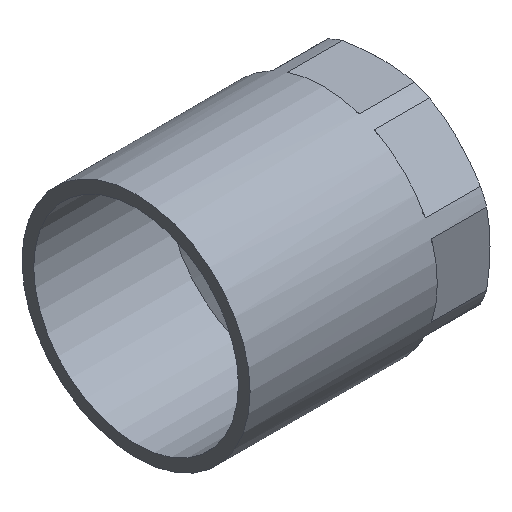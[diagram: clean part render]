
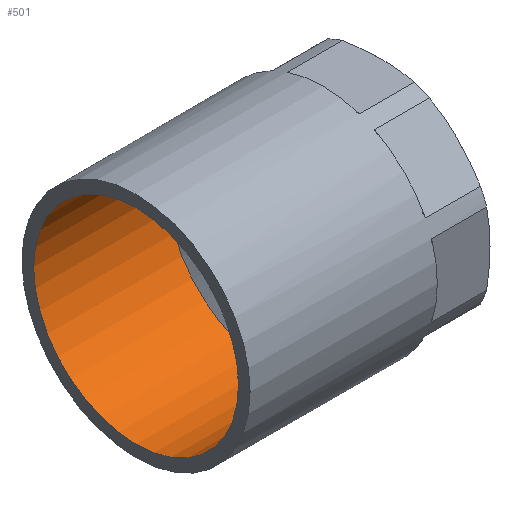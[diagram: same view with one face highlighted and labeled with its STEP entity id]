
A CAD part, isometric view. The second image highlights one B-rep face of the part: STEP entity #501.
In plain terms, the highlighted cylindrical face has radius 17.5 mm (diameter 35 mm), a full revolution.
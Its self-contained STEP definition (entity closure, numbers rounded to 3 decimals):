
#20=FACE_BOUND('',#117,.T.);
#24=CYLINDRICAL_SURFACE('',#563,17.5);
#80=FACE_OUTER_BOUND('',#116,.T.);
#116=EDGE_LOOP('',(#450));
#117=EDGE_LOOP('',(#451));
#196=CIRCLE('',#562,17.5);
#197=CIRCLE('',#564,17.5);
#242=VERTEX_POINT('',#888);
#243=VERTEX_POINT('',#891);
#312=EDGE_CURVE('',#242,#242,#196,.T.);
#313=EDGE_CURVE('',#243,#243,#197,.T.);
#450=ORIENTED_EDGE('',*,*,#313,.F.);
#451=ORIENTED_EDGE('',*,*,#312,.T.);
#501=ADVANCED_FACE('',(#80,#20),#24,.F.);
#562=AXIS2_PLACEMENT_3D('',#889,#706,#707);
#563=AXIS2_PLACEMENT_3D('',#890,#708,#709);
#564=AXIS2_PLACEMENT_3D('',#892,#710,#711);
#706=DIRECTION('center_axis',(1.,0.,0.));
#707=DIRECTION('ref_axis',(0.,1.,0.));
#708=DIRECTION('center_axis',(1.,0.,0.));
#709=DIRECTION('ref_axis',(0.,1.,0.));
#710=DIRECTION('center_axis',(1.,0.,0.));
#711=DIRECTION('ref_axis',(0.,1.,0.));
#888=CARTESIAN_POINT('',(23.,17.5,0.));
#889=CARTESIAN_POINT('Origin',(23.,0.,0.));
#890=CARTESIAN_POINT('Origin',(11.5,0.,0.));
#891=CARTESIAN_POINT('',(0.,17.5,0.));
#892=CARTESIAN_POINT('Origin',(0.,0.,0.));
